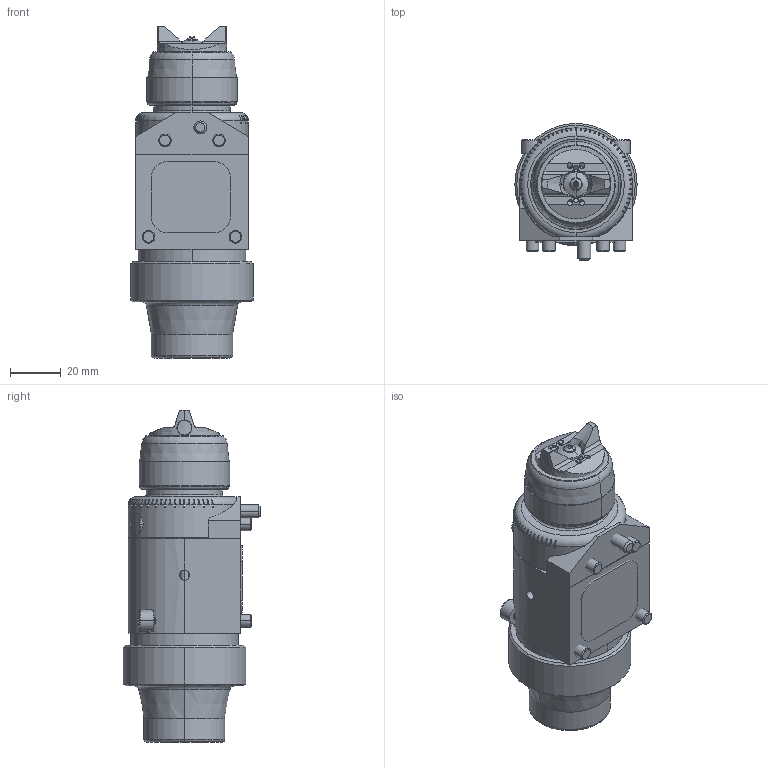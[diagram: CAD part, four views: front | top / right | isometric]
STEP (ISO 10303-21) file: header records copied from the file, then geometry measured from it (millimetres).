
FILE_DESCRIPTION((''),'2;1');
FILE_NAME('26B570-EN-C_PRT','2022-04-25T09:07:39',('qtmwp1'),(''),'CREO PARAMETRIC BY PTC INC, 2021072','CREO PARAMETRIC BY PTC INC, 2021072','');
FILE_SCHEMA(('CONFIG_CONTROL_DESIGN'));
Length unit declared in the file: inch
Products named in the file (1): 26B570-EN-C_PRT
Bounding box: 48.26 x 54.23 x 130.97 mm (x, y, z)
Surface area: 39403.8 mm2 (no closed solid volume)
Topology: 0 solids, 37 shells, 332 faces, 1234 edges, 839 vertices
Faces by surface type: plane 149, cylinder 123, cone 34, torus 24, sphere 2
Entity records: 14353 total; most frequent: CARTESIAN_POINT 4449, DIRECTION 2033, ORIENTED_EDGE 1885, EDGE_CURVE 1234, VERTEX_POINT 839, AXIS2_PLACEMENT_3D 747, VECTOR 539, LINE 539
